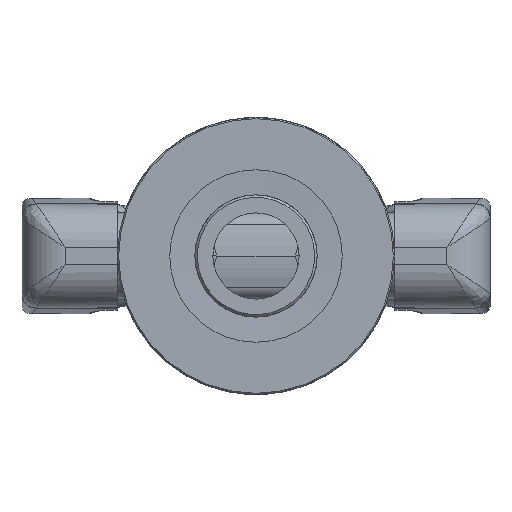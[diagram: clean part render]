
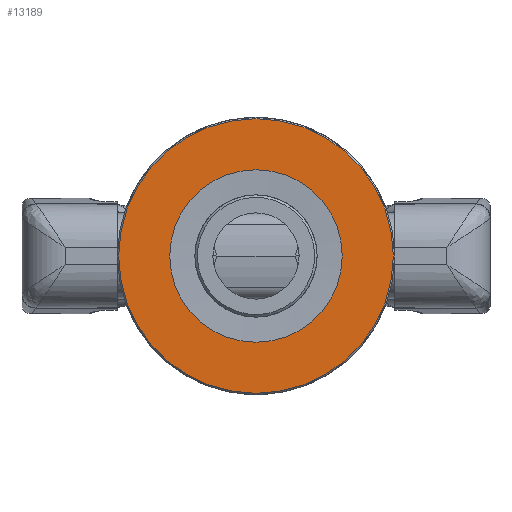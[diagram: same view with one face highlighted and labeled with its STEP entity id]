
A CAD part, front view. The second image highlights one B-rep face of the part: STEP entity #13189.
In plain terms, the highlighted planar face has unit normal (0, -1, 0) as drawn and (0, 0, -1) by its records, which use the part's own axes.
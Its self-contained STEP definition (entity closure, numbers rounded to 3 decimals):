
#282=FACE_BOUND('',#4079,.T.);
#735=CIRCLE('',#14246,22.3);
#737=CIRCLE('',#14250,14.);
#2478=PLANE('',#14249);
#3240=FACE_OUTER_BOUND('',#4078,.T.);
#4078=EDGE_LOOP('',(#12082));
#4079=EDGE_LOOP('',(#12083));
#6158=VERTEX_POINT('',#42881);
#6160=VERTEX_POINT('',#42887);
#8136=EDGE_CURVE('',#6158,#6158,#735,.T.);
#8138=EDGE_CURVE('',#6160,#6160,#737,.T.);
#12082=ORIENTED_EDGE('',*,*,#8136,.F.);
#12083=ORIENTED_EDGE('',*,*,#8138,.F.);
#13189=ADVANCED_FACE('',(#3240,#282),#2478,.F.);
#14246=AXIS2_PLACEMENT_3D('',#42882,#16919,#16920);
#14249=AXIS2_PLACEMENT_3D('',#42886,#16925,#16926);
#14250=AXIS2_PLACEMENT_3D('',#42888,#16927,#16928);
#16919=DIRECTION('center_axis',(0.,0.,1.));
#16920=DIRECTION('ref_axis',(-1.,0.,0.));
#16925=DIRECTION('center_axis',(0.,0.,1.));
#16926=DIRECTION('ref_axis',(1.,0.,0.));
#16927=DIRECTION('center_axis',(0.,0.,-1.));
#16928=DIRECTION('ref_axis',(-1.,0.,0.));
#42881=CARTESIAN_POINT('',(22.3,0.,0.));
#42882=CARTESIAN_POINT('Origin',(0.,0.,0.));
#42886=CARTESIAN_POINT('Origin',(0.,0.,0.));
#42887=CARTESIAN_POINT('',(14.,0.,0.));
#42888=CARTESIAN_POINT('Origin',(0.,0.,0.));
